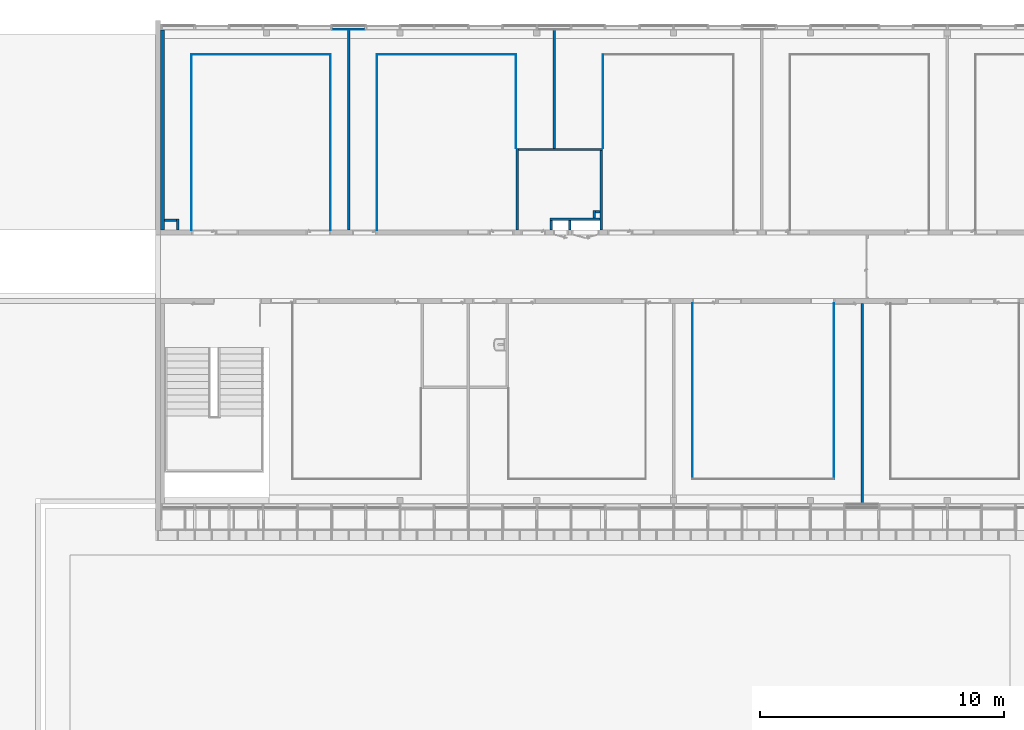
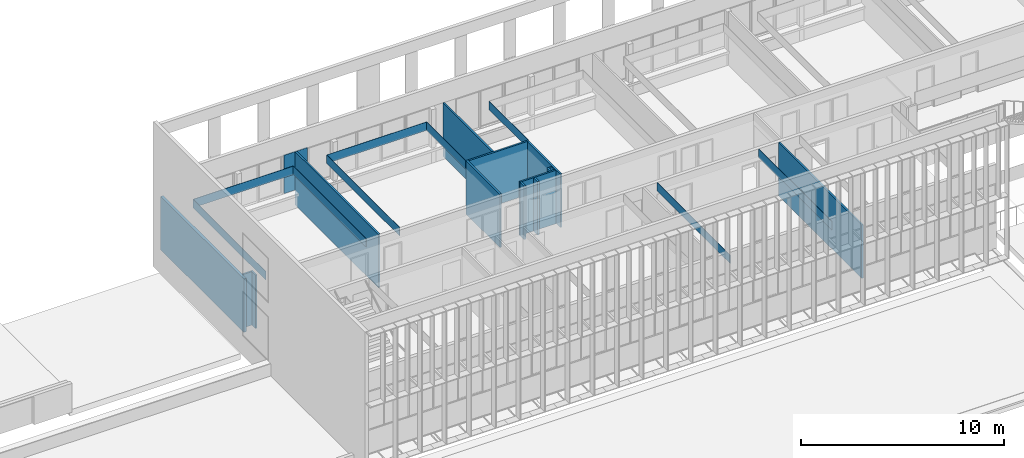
# One storey, part 46 of 106: 25 walls.
"""IFC2X3 building model written with IfcOpenShell, lengths in centimetres."""

from ifc_helpers import new_model, entity, si_unit, converted_unit, derived_unit, direction, frame, frame_2d, origin, place, context, subcontext, project, spatial, polyline, rectangle, extrude, clip, bounded_halfspace, material, layer, layer_set, layer_usage, type_object, element, save


model = new_model("IFC2X3")

# Units and contexts
model_context = context("Model", 3, precision=0.001, world=origin(), true_north=direction((6.12303176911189e-17, 1.0)))
body_context = subcontext(model_context, "Body", "Model", "MODEL_VIEW")
ifc_project = project(units=[si_unit("LENGTHUNIT", "METRE", prefix="CENTI"), si_unit("AREAUNIT", "SQUARE_METRE"), si_unit("VOLUMEUNIT", "CUBIC_METRE"), converted_unit("PLANEANGLEUNIT", "DEGREE", entity("IfcRatioMeasure", 0.0174532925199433), si_unit("PLANEANGLEUNIT", "RADIAN"), dimensions=[0, 0, 0, 0, 0, 0, 0]), si_unit("MASSUNIT", "GRAM", prefix="KILO"), derived_unit("MASSDENSITYUNIT", [(si_unit("MASSUNIT", "GRAM", prefix="KILO"), 1), (si_unit("LENGTHUNIT", "METRE"), -3)]), si_unit("TIMEUNIT", "SECOND"), si_unit("FREQUENCYUNIT", "HERTZ"), si_unit("THERMODYNAMICTEMPERATUREUNIT", "DEGREE_CELSIUS"), derived_unit("THERMALTRANSMITTANCEUNIT", [(si_unit("MASSUNIT", "GRAM", prefix="KILO"), 1), (si_unit("THERMODYNAMICTEMPERATUREUNIT", "KELVIN"), -1), (si_unit("TIMEUNIT", "SECOND"), -3)]), derived_unit("VOLUMETRICFLOWRATEUNIT", [(si_unit("LENGTHUNIT", "METRE"), 3), (si_unit("TIMEUNIT", "SECOND"), -1)]), si_unit("ELECTRICCURRENTUNIT", "AMPERE"), si_unit("ELECTRICVOLTAGEUNIT", "VOLT"), si_unit("POWERUNIT", "WATT"), si_unit("FORCEUNIT", "NEWTON", prefix="KILO"), si_unit("ILLUMINANCEUNIT", "LUX"), si_unit("LUMINOUSFLUXUNIT", "LUMEN"), si_unit("LUMINOUSINTENSITYUNIT", "CANDELA"), derived_unit("USERDEFINED", [(si_unit("MASSUNIT", "GRAM", prefix="KILO"), -1), (si_unit("LENGTHUNIT", "METRE"), -2), (si_unit("TIMEUNIT", "SECOND"), 3), (si_unit("LUMINOUSFLUXUNIT", "LUMEN"), 1)]), derived_unit("LINEARVELOCITYUNIT", [(si_unit("LENGTHUNIT", "METRE"), 1), (si_unit("TIMEUNIT", "SECOND"), -1)]), si_unit("PRESSUREUNIT", "PASCAL"), derived_unit("USERDEFINED", [(si_unit("LENGTHUNIT", "METRE"), -2), (si_unit("MASSUNIT", "GRAM", prefix="KILO"), 1), (si_unit("TIMEUNIT", "SECOND"), -2)])], contexts=[model_context])

# Site, building, storey
site_placement = place(None, frame((-2781.94577612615, 7442.24238424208, 0.0)))
site = spatial("IfcSite", under=ifc_project, at=site_placement, Name="Default", CompositionType="ELEMENT")
building_placement = place(site_placement, origin())
building = spatial("IfcBuilding", under=site, at=building_placement, CompositionType="ELEMENT")
storey_placement = place(building_placement, frame((0.0, 0.0, 422.0)))
storey = spatial("IfcBuildingStorey", under=building, at=storey_placement, Name="Toiture - Cuisine", CompositionType="ELEMENT", Elevation=421.999999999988)

# Walls
ifc_material_1 = material(Name="00 - Isolant")
ifc_layer_1 = layer(ifc_material_1, 14.0)
ifc_material_2 = material(Name="01 - Enduit/Plâtre")
ifc_layer_2 = layer(ifc_material_2, 1.3)
ifc_layer_set_1 = layer_set([ifc_layer_1, ifc_layer_2], Name="Mur de base:04 - Parement -  isolant 14 cm + BA13")
ifc_layer_usage_1 = layer_usage(ifc_layer_set_1, "AXIS2", "POSITIVE", -7.65)
wall_type_1 = type_object("IfcWallType", Name="Mur de base:04 - Parement -  isolant 14 cm + BA13", PredefinedType="STANDARD", material=ifc_layer_set_1)
wall_1_placement = place(building_placement, frame((-8401.84987766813, 10.0, 422.0), z_axis=(0.0, 0.0, 1.0), x_axis=(0.0, -1.0, 0.0)))
element("IfcWallStandardCase", 1, at=wall_1_placement, inside=storey, type_object=wall_type_1, material=ifc_layer_usage_1, Name="Mur de base:04 - Parement -  isolant 14 cm + BA13", ObjectType="Mur de base:04 - Parement -  isolant 14 cm + BA13", context=body_context, shape_type="Clipping", body=[
    clip(extrude(rectangle(XDim=820.048500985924, YDim=15.3000000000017, at=frame_2d((410.024250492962, 0.0), x_axis=(-1.0, 0.0))), origin(), (0.0, 0.0, 1.0), 321.0), bounded_halfspace(frame((20.0, -7.64999999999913, 321.0), z_axis=(0.0, 0.0, -1.0), x_axis=(-1.0, 0.0, 0.0)), True, frame((20.0, -7.64999999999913, 321.0)), polyline([(0.0, 0.0), (800.048500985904, 0.0), (800.048500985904, 15.3), (765.048500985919, 15.3), (755.048500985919, 15.3), (0.0, 15.3), (0.0, 0.0)]))),
])
ifc_layer_3 = layer(ifc_material_2, 1.3)
ifc_layer_4 = layer(ifc_material_1, 7.4)
ifc_layer_5 = layer(ifc_material_2, 1.3)
ifc_layer_set_2 = layer_set([ifc_layer_3, ifc_layer_4, ifc_layer_5], Name="Mur de base:06 - cloisons - Ba13 10cm")
ifc_layer_usage_2 = layer_usage(ifc_layer_set_2, "AXIS2", "NEGATIVE", 5.0)
wall_type_2 = type_object("IfcWallType", Name="Mur de base:06 - cloisons - Ba13 10cm", PredefinedType="STANDARD", material=ifc_layer_set_2)
wall_2_placement = place(building_placement, frame((-6798.79987968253, 10.0, 422.0), z_axis=(0.0, 0.0, 1.0), x_axis=(0.0, -1.0, 0.0)))
element("IfcWallStandardCase", 2, at=wall_2_placement, inside=storey, type_object=wall_type_2, material=ifc_layer_usage_2, Name="Mur de base:06 - cloisons - Ba13 10cm", ObjectType="Mur de base:06 - cloisons - Ba13 10cm", context=body_context, shape_type="Clipping", body=[
    clip(extrude(rectangle(XDim=485.048500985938, YDim=9.99999999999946, at=frame_2d((242.524250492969, 7.32747196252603e-14), x_axis=(-1.0, 0.0))), origin(), (0.0, 0.0, 1.0), 321.0), bounded_halfspace(frame((20.0, -5.0, 321.0), z_axis=(0.0, 0.0, -1.0), x_axis=(-1.0, 0.0, 0.0)), True, frame((20.0, -5.0, 321.0)), polyline([(0.0, 0.0), (465.048500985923, 0.0), (465.048500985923, 10.0), (0.0, 10.0), (0.0, 0.0)]))),
])
ifc_layer_usage_3 = layer_usage(ifc_layer_set_2, "AXIS2", "NEGATIVE", 5.0)
wall_3_placement = place(building_placement, frame((-7638.79987968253, 10.0, 422.0), z_axis=(0.0, 0.0, 1.0), x_axis=(0.0, -1.0, 0.0)))
element("IfcWallStandardCase", 3, at=wall_3_placement, inside=storey, type_object=wall_type_2, material=ifc_layer_usage_3, Name="Mur de base:06 - cloisons - Ba13 10cm", ObjectType="Mur de base:06 - cloisons - Ba13 10cm", context=body_context, shape_type="Clipping", body=[
    clip(extrude(rectangle(XDim=820.048500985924, YDim=9.99999999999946, at=frame_2d((410.024250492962, 1.06581410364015e-14), x_axis=(-1.0, 0.0))), origin(), (0.0, 0.0, 1.0), 321.0), bounded_halfspace(frame((20.0, -5.0, 321.0), z_axis=(0.0, 0.0, -1.0), x_axis=(-1.0, 0.0, 0.0)), True, frame((20.0, -5.0, 321.0)), polyline([(0.0, 0.0), (800.048500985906, 0.0), (800.048500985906, 10.0), (0.0, 10.0), (0.0, 0.0)]))),
])
ifc_layer_usage_4 = layer_usage(ifc_layer_set_2, "AXIS2", "NEGATIVE", 5.0)
wall_4_placement = place(building_placement, frame((-6948.79987968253, -810.048500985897, 422.0), z_axis=(0.0, 0.0, 1.0), x_axis=(0.0, 1.0, 0.0)))
element("IfcWallStandardCase", 4, at=wall_4_placement, inside=storey, type_object=wall_type_2, material=ifc_layer_usage_4, Name="Mur de base:06 - cloisons - Ba13 10cm", ObjectType="Mur de base:06 - cloisons - Ba13 10cm", context=body_context, shape_type="Clipping", body=[
    clip(extrude(rectangle(XDim=334.999999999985, YDim=9.99999999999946, at=frame_2d((167.499999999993, 0.0), x_axis=(-1.0, 0.0))), origin(), (0.0, 0.0, 1.0), 321.0), bounded_halfspace(frame((0.0, -5.0, 321.0), z_axis=(0.0, 0.0, -1.0), x_axis=(1.0, 0.0, 0.0)), True, frame((0.0, -5.0, 321.0)), polyline([(0.0, 0.0), (325.0, 0.0), (335.0, 0.0), (335.0, 10.0), (0.0, 10.0), (0.0, 0.0)]))),
])
ifc_layer_usage_5 = layer_usage(ifc_layer_set_2, "AXIS2", "NEGATIVE", 5.0)
wall_5_placement = place(building_placement, frame((-6943.79987968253, -480.048500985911, 422.0)))
element("IfcWallStandardCase", 5, at=wall_5_placement, inside=storey, type_object=wall_type_2, material=ifc_layer_usage_5, Name="Mur de base:06 - cloisons - Ba13 10cm", ObjectType="Mur de base:06 - cloisons - Ba13 10cm", context=body_context, shape_type="Clipping", body=[
    clip(extrude(rectangle(XDim=344.000000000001, YDim=10.0, at=frame_2d((172.0, 0.0), x_axis=(-1.0, 0.0))), origin(), (0.0, 0.0, 1.0), 321.0), bounded_halfspace(frame((0.0, -5.0, 321.0), z_axis=(0.0, 0.0, -1.0), x_axis=(0.0, 1.0, 0.0)), True, frame((0.0, -5.0, 321.0)), polyline([(0.0, 0.0), (334.0, 0.0), (344.0, 0.0), (344.0, 10.0), (150.0, 10.0), (140.0, 10.0), (0.0, 10.0), (0.0, 0.0)]))),
])
ifc_layer_usage_6 = layer_usage(ifc_layer_set_2, "AXIS2", "NEGATIVE", 5.0)
wall_6_placement = place(building_placement, frame((-6604.79987968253, -485.048500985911, 422.0), z_axis=(0.0, 0.0, 1.0), x_axis=(0.0, -1.0, 0.0)))
element("IfcWallStandardCase", 6, at=wall_6_placement, inside=storey, type_object=wall_type_2, material=ifc_layer_usage_6, Name="Mur de base:06 - cloisons - Ba13 10cm", ObjectType="Mur de base:06 - cloisons - Ba13 10cm", context=body_context, shape_type="Clipping", body=[
    clip(extrude(rectangle(XDim=324.999999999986, YDim=9.99999999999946, at=frame_2d((162.499999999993, 0.0), x_axis=(-1.0, 0.0))), origin(), (0.0, 0.0, 1.0), 321.0), bounded_halfspace(frame((0.0, -5.0, 321.0), z_axis=(0.0, 0.0, -1.0), x_axis=(-1.0, 0.0, 0.0)), True, frame((0.0, -5.0, 321.0)), polyline([(0.0, 0.0), (245.0, 0.0), (255.0, 0.0), (275.0, 0.0), (285.0, 0.0), (325.0, 0.0), (325.0, 10.0), (0.0, 10.0), (0.0, 0.0)]))),
])
ifc_layer_usage_7 = layer_usage(ifc_layer_set_2, "AXIS2", "NEGATIVE", 5.0)
wall_7_placement = place(building_placement, frame((-6609.79987968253, -765.048500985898, 422.0), z_axis=(0.0, 0.0, 1.0), x_axis=(-1.0, 0.0, 0.0)))
element("IfcWallStandardCase", 7, at=wall_7_placement, inside=storey, type_object=wall_type_2, material=ifc_layer_usage_7, Name="Mur de base:06 - cloisons - Ba13 10cm", ObjectType="Mur de base:06 - cloisons - Ba13 10cm", context=body_context, shape_type="Clipping", body=[
    clip(extrude(rectangle(XDim=206.0, YDim=10.0000000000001, at=frame_2d((103.0, -2.48689957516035e-14), x_axis=(-1.0, 0.0))), origin(), (0.0, 0.0, 1.0), 321.0), bounded_halfspace(frame((0.0, -5.0, 321.0), z_axis=(0.0, 0.0, -1.0), x_axis=(0.0, -1.0, 0.0)), True, frame((0.0, -5.0, 321.0)), polyline([(0.0, 0.0), (20.0, 0.0), (30.0, 0.0), (206.0, 0.0), (206.0, 10.0), (196.0, 10.0), (129.0, 10.0), (119.0, 10.0), (0.0, 10.0), (0.0, 0.0)]))),
])
ifc_layer_usage_8 = layer_usage(ifc_layer_set_2, "AXIS2", "NEGATIVE", 5.0)
wall_8_placement = place(building_placement, frame((-6810.79987968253, -770.048500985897, 422.0), z_axis=(0.0, 0.0, 1.0), x_axis=(0.0, -1.0, 0.0)))
element("IfcWallStandardCase", 8, at=wall_8_placement, inside=storey, type_object=wall_type_2, material=ifc_layer_usage_8, Name="Mur de base:06 - cloisons - Ba13 10cm", ObjectType="Mur de base:06 - cloisons - Ba13 10cm", context=body_context, shape_type="Clipping", body=[
    clip(extrude(rectangle(XDim=40.0000000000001, YDim=9.99999999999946, at=frame_2d((20.0000000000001, 0.0), x_axis=(-1.0, 0.0))), origin(), (0.0, 0.0, 1.0), 321.0), bounded_halfspace(frame((0.0, -5.0, 321.0), z_axis=(0.0, 0.0, -1.0), x_axis=(-1.0, 0.0, 0.0)), True, frame((0.0, -5.0, 321.0)), polyline([(0.0, 0.0), (40.0, 0.0), (40.0, 10.0), (0.0, 10.0), (0.0, 0.0)]))),
])
ifc_layer_usage_9 = layer_usage(ifc_layer_set_2, "AXIS2", "NEGATIVE", 5.0)
wall_9_placement = place(building_placement, frame((-6733.79987968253, -770.048500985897, 422.0), z_axis=(0.0, 0.0, 1.0), x_axis=(0.0, -1.0, 0.0)))
element("IfcWallStandardCase", 9, at=wall_9_placement, inside=storey, type_object=wall_type_2, material=ifc_layer_usage_9, Name="Mur de base:06 - cloisons - Ba13 10cm", ObjectType="Mur de base:06 - cloisons - Ba13 10cm", context=body_context, shape_type="Clipping", body=[
    clip(extrude(rectangle(XDim=40.0, YDim=9.99999999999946, at=frame_2d((20.0, 0.0), x_axis=(-1.0, 0.0))), origin(), (0.0, 0.0, 1.0), 321.0), bounded_halfspace(frame((0.0, -5.0, 321.0), z_axis=(0.0, 0.0, -1.0), x_axis=(-1.0, 0.0, 0.0)), True, frame((0.0, -5.0, 321.0)), polyline([(0.0, 0.0), (40.0, 0.0), (40.0, 10.0), (0.0, 10.0), (0.0, 0.0)]))),
])
ifc_layer_usage_10 = layer_usage(ifc_layer_set_2, "AXIS2", "NEGATIVE", 5.0)
wall_10_placement = place(building_placement, frame((-5537.49987760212, -1110.0, 422.0), z_axis=(0.0, 0.0, 1.0), x_axis=(0.0, -1.0, 0.0)))
element("IfcWallStandardCase", 10, at=wall_10_placement, inside=storey, type_object=wall_type_2, material=ifc_layer_usage_10, Name="Mur de base:06 - cloisons - Ba13 10cm", ObjectType="Mur de base:06 - cloisons - Ba13 10cm", context=body_context, shape_type="Clipping", body=[
    clip(extrude(rectangle(XDim=820.079033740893, YDim=9.99999999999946, at=frame_2d((410.039516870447, 1.06581410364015e-14), x_axis=(-1.0, 0.0))), origin(), (0.0, 0.0, 1.0), 321.0), bounded_halfspace(frame((0.0, -5.0, 321.0), z_axis=(0.0, 0.0, -1.0), x_axis=(-1.0, 0.0, 0.0)), True, frame((0.0, -5.0, 321.0)), polyline([(0.0, 0.0), (800.079033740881, 0.0), (800.079033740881, 10.0), (0.0, 10.0), (0.0, 0.0)]))),
])
ifc_layer_usage_11 = layer_usage(ifc_layer_set_2, "AXIS2", "NEGATIVE", 5.0)
wall_11_placement = place(building_placement, frame((-8339.19987766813, -810.048500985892, 422.0), z_axis=(0.0, 0.0, 1.0), x_axis=(0.0, 1.0, 0.0)))
element("IfcWallStandardCase", 11, at=wall_11_placement, inside=storey, type_object=wall_type_2, material=ifc_layer_usage_11, Name="Mur de base:06 - cloisons - Ba13 10cm", ObjectType="Mur de base:06 - cloisons - Ba13 10cm", context=body_context, shape_type="Clipping", body=[
    clip(extrude(rectangle(XDim=44.9999999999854, YDim=10.0000000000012, at=frame_2d((22.4999999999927, 0.0), x_axis=(-1.0, 0.0))), origin(), (0.0, 0.0, 1.0), 321.0), bounded_halfspace(frame((0.0, -5.0, 321.0), z_axis=(0.0, 0.0, -1.0), x_axis=(1.0, 0.0, 0.0)), True, frame((0.0, -5.0, 321.0)), polyline([(0.0, 0.0), (45.0, 0.0), (45.0, 10.0), (35.0, 10.0), (0.0, 10.0), (0.0, 0.0)]))),
])
ifc_layer_usage_12 = layer_usage(ifc_layer_set_2, "AXIS2", "NEGATIVE", 5.0)
wall_12_placement = place(building_placement, frame((-8344.19987766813, -770.048500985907, 422.0), z_axis=(0.0, 0.0, 1.0), x_axis=(-1.0, 0.0, 0.0)))
element("IfcWallStandardCase", 12, at=wall_12_placement, inside=storey, type_object=wall_type_2, material=ifc_layer_usage_12, Name="Mur de base:06 - cloisons - Ba13 10cm", ObjectType="Mur de base:06 - cloisons - Ba13 10cm", context=body_context, shape_type="Clipping", body=[
    clip(extrude(rectangle(XDim=50.0000000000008, YDim=10.0000000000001, at=frame_2d((25.0000000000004, 2.04281036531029e-14), x_axis=(-1.0, 0.0))), origin(), (0.0, 0.0, 1.0), 321.0), bounded_halfspace(frame((0.0, -5.0, 321.0), z_axis=(0.0, 0.0, -1.0), x_axis=(0.0, -1.0, 0.0)), True, frame((0.0, -5.0, 321.0)), polyline([(0.0, 0.0), (50.0, 0.0), (50.0, 10.0), (0.0, 10.0), (0.0, 0.0)]))),
])
ifc_layer_usage_13 = layer_usage(ifc_layer_set_2, "AXIS2", "NEGATIVE", 5.0)
wall_13_placement = place(building_placement, frame((-6634.79987968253, -760.048500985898, 422.0), z_axis=(0.0, 0.0, 1.0), x_axis=(0.0, 1.0, 0.0)))
element("IfcWallStandardCase", 13, at=wall_13_placement, inside=storey, type_object=wall_type_2, material=ifc_layer_usage_13, Name="Mur de base:06 - cloisons - Ba13 10cm", ObjectType="Mur de base:06 - cloisons - Ba13 10cm", context=body_context, shape_type="Clipping", body=[
    clip(extrude(rectangle(XDim=30.0, YDim=9.99999999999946, at=frame_2d((15.0, 0.0), x_axis=(-1.0, 0.0))), origin(), (0.0, 0.0, 1.0), 321.0), bounded_halfspace(frame((0.0, -5.0, 321.0), z_axis=(0.0, 0.0, -1.0), x_axis=(1.0, 0.0, 0.0)), True, frame((0.0, -5.0, 321.0)), polyline([(0.0, 0.0), (20.0, 0.0), (30.0, 0.0), (30.0, 10.0), (0.0, 10.0), (0.0, 0.0)]))),
])
ifc_layer_usage_14 = layer_usage(ifc_layer_set_2, "AXIS2", "NEGATIVE", 5.0)
wall_14_placement = place(building_placement, frame((-6629.79987968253, -735.048500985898, 422.0)))
element("IfcWallStandardCase", 14, at=wall_14_placement, inside=storey, type_object=wall_type_2, material=ifc_layer_usage_14, Name="Mur de base:06 - cloisons - Ba13 10cm", ObjectType="Mur de base:06 - cloisons - Ba13 10cm", context=body_context, shape_type="Clipping", body=[
    clip(extrude(rectangle(XDim=19.9999999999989, YDim=10.0000000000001, at=frame_2d((9.99999999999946, -1.64313007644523e-14), x_axis=(-1.0, 0.0))), origin(), (0.0, 0.0, 1.0), 321.0), bounded_halfspace(frame((0.0, -5.0, 321.0), z_axis=(0.0, 0.0, -1.0), x_axis=(0.0, 1.0, 0.0)), True, frame((0.0, -5.0, 321.0)), polyline([(0.0, 0.0), (20.0, 0.0), (20.0, 10.0), (0.0, 10.0), (0.0, 0.0)]))),
])
ifc_layer_6 = layer(ifc_material_2, 1.3)
ifc_material_3 = material(Name="00 - VIDE D'AIR")
ifc_layer_7 = layer(ifc_material_3, 0.7)
ifc_layer_set_3 = layer_set([ifc_layer_6, ifc_layer_7], Name="Mur de base:06 - habillage Ba13 collée 2cm")
ifc_layer_usage_15 = layer_usage(ifc_layer_set_3, "AXIS2", "NEGATIVE", 1.0)
wall_type_3 = type_object("IfcWallType", Name="Mur de base:06 - habillage Ba13 collée 2cm", PredefinedType="STANDARD", material=ifc_layer_set_3)
wall_15_placement = place(building_placement, frame((-7712.29987968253, -91.0, 692.0), z_axis=(0.0, 0.0, 1.0), x_axis=(-1.0, 0.0, 0.0)))
element("IfcWallStandardCase", 15, at=wall_15_placement, inside=storey, type_object=wall_type_3, material=ifc_layer_usage_15, Name="Mur de base:06 - habillage Ba13 collée 2cm", ObjectType="Mur de base:06 - habillage Ba13 collée 2cm", context=body_context, shape_type="Clipping", body=[
    clip(extrude(rectangle(XDim=571.899997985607, YDim=2.00000000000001, at=frame_2d((285.949998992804, 5.44009282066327e-15), x_axis=(-1.0, 0.0))), origin(), (0.0, 0.0, 1.0), 50.9999999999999), bounded_halfspace(frame((0.0, -1.0, 51.0), z_axis=(0.0, 0.0, -1.0), x_axis=(0.0, -1.0, 0.0)), True, frame((0.0, -1.0, 51.0)), polyline([(0.0, 0.0), (571.899997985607, 0.0), (571.899997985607, 2.0), (569.899997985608, 2.0), (2.0, 2.0), (0.0, 2.0), (0.0, 0.0)]))),
])
ifc_layer_usage_16 = layer_usage(ifc_layer_set_3, "AXIS2", "POSITIVE", -1.0)
wall_16_placement = place(building_placement, frame((-6953.79987968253, -91.0, 692.0), z_axis=(0.0, 0.0, 1.0), x_axis=(-1.0, 0.0, 0.0)))
element("IfcWallStandardCase", 16, at=wall_16_placement, inside=storey, type_object=wall_type_3, material=ifc_layer_usage_16, Name="Mur de base:06 - habillage Ba13 collée 2cm", ObjectType="Mur de base:06 - habillage Ba13 collée 2cm", context=body_context, shape_type="Clipping", body=[
    clip(extrude(rectangle(XDim=569.999999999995, YDim=2.00000000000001, at=frame_2d((284.999999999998, 4.44089209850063e-16), x_axis=(-1.0, 0.0))), origin(), (0.0, 0.0, 1.0), 50.9999999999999), bounded_halfspace(frame((0.0, -1.0, 51.0), z_axis=(0.0, 0.0, -1.0), x_axis=(0.0, -1.0, 0.0)), True, frame((0.0, -1.0, 51.0)), polyline([(0.0, 0.0), (570.0, 0.0), (570.0, 2.0), (568.0, 2.0), (2.0, 2.0), (0.0, 2.0), (0.0, 0.0)]))),
])
ifc_layer_usage_17 = layer_usage(ifc_layer_set_3, "AXIS2", "POSITIVE", -1.0)
wall_17_placement = place(building_placement, frame((-6598.79987968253, -92.0, 692.0), z_axis=(0.0, 0.0, 1.0), x_axis=(0.0, -1.0, 0.0)))
element("IfcWallStandardCase", 17, at=wall_17_placement, inside=storey, type_object=wall_type_3, material=ifc_layer_usage_17, Name="Mur de base:06 - habillage Ba13 collée 2cm", ObjectType="Mur de base:06 - habillage Ba13 collée 2cm", context=body_context, shape_type="Clipping", body=[
    clip(extrude(rectangle(XDim=383.048500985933, YDim=1.99999999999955, at=frame_2d((191.524250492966, -1.16573417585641e-15), x_axis=(-1.0, 0.0))), origin(), (0.0, 0.0, 1.0), 50.9999999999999), bounded_halfspace(frame((0.0, -1.0, 51.0), z_axis=(0.0, 0.0, -1.0), x_axis=(-1.0, 0.0, 0.0)), True, frame((0.0, -1.0, 51.0)), polyline([(0.0, 0.0), (383.048500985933, 0.0), (383.048500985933, 2.0), (0.0, 2.0), (0.0, 0.0)]))),
])
ifc_layer_usage_18 = layer_usage(ifc_layer_set_3, "AXIS2", "POSITIVE", -1.0)
wall_18_placement = place(building_placement, frame((-6954.79987968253, -475.048500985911, 692.0), z_axis=(0.0, 0.0, 1.0), x_axis=(0.0, 1.0, 0.0)))
element("IfcWallStandardCase", 18, at=wall_18_placement, inside=storey, type_object=wall_type_3, material=ifc_layer_usage_18, Name="Mur de base:06 - habillage Ba13 collée 2cm", ObjectType="Mur de base:06 - habillage Ba13 collée 2cm", context=body_context, shape_type="Clipping", body=[
    clip(extrude(rectangle(XDim=383.048500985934, YDim=1.99999999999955, at=frame_2d((191.524250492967, -1.16573417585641e-15), x_axis=(-1.0, 0.0))), origin(), (0.0, 0.0, 1.0), 50.9999999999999), bounded_halfspace(frame((0.0, -1.0, 51.0), z_axis=(0.0, 0.0, -1.0), x_axis=(1.0, 0.0, 0.0)), True, frame((0.0, -1.0, 51.0)), polyline([(0.0, 0.0), (383.048500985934, 0.0), (383.048500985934, 2.0), (0.0, 2.0), (0.0, 0.0)]))),
])
ifc_layer_usage_19 = layer_usage(ifc_layer_set_3, "AXIS2", "POSITIVE", -1.0)
wall_19_placement = place(building_placement, frame((-7522.79987968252, -92.0, 692.0), z_axis=(0.0, 0.0, 1.0), x_axis=(0.0, -1.0, 0.0)))
element("IfcWallStandardCase", 19, at=wall_19_placement, inside=storey, type_object=wall_type_3, material=ifc_layer_usage_19, Name="Mur de base:06 - habillage Ba13 collée 2cm", ObjectType="Mur de base:06 - habillage Ba13 collée 2cm", context=body_context, shape_type="Clipping", body=[
    clip(extrude(rectangle(XDim=718.048500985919, YDim=1.99999999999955, at=frame_2d((359.02425049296, -5.93969318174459e-15), x_axis=(-1.0, 0.0))), origin(), (0.0, 0.0, 1.0), 50.9999999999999), bounded_halfspace(frame((0.0, -1.0, 51.0), z_axis=(0.0, 0.0, -1.0), x_axis=(-1.0, 0.0, 0.0)), True, frame((0.0, -1.0, 51.0)), polyline([(0.0, 0.0), (718.048500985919, 0.0), (718.048500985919, 2.0), (0.0, 2.0), (0.0, 0.0)]))),
])
ifc_layer_usage_20 = layer_usage(ifc_layer_set_3, "AXIS2", "POSITIVE", -1.0)
wall_20_placement = place(building_placement, frame((-7713.29987968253, -810.048500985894, 692.0), z_axis=(0.0, 0.0, 1.0), x_axis=(0.0, 1.0, 0.0)))
element("IfcWallStandardCase", 20, at=wall_20_placement, inside=storey, type_object=wall_type_3, material=ifc_layer_usage_20, Name="Mur de base:06 - habillage Ba13 collée 2cm", ObjectType="Mur de base:06 - habillage Ba13 collée 2cm", context=body_context, shape_type="Clipping", body=[
    clip(extrude(rectangle(XDim=718.048500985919, YDim=1.99999999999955, at=frame_2d((359.02425049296, 2.07722727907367e-13), x_axis=(-1.0, 0.0))), origin(), (0.0, 0.0, 1.0), 50.9999999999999), bounded_halfspace(frame((0.0, -1.0, 51.0), z_axis=(0.0, 0.0, -1.0), x_axis=(1.0, 0.0, 0.0)), True, frame((0.0, -1.0, 51.0)), polyline([(0.0, 0.0), (718.048500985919, 0.0), (718.048500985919, 2.0), (0.0, 2.0), (0.0, 0.0)]))),
])
ifc_layer_usage_21 = layer_usage(ifc_layer_set_3, "AXIS2", "POSITIVE", -1.0)
wall_21_placement = place(building_placement, frame((-8283.19987766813, -92.0, 692.0), z_axis=(0.0, 0.0, 1.0), x_axis=(0.0, -1.0, 0.0)))
element("IfcWallStandardCase", 21, at=wall_21_placement, inside=storey, type_object=wall_type_3, material=ifc_layer_usage_21, Name="Mur de base:06 - habillage Ba13 collée 2cm", ObjectType="Mur de base:06 - habillage Ba13 collée 2cm", context=body_context, shape_type="Clipping", body=[
    clip(extrude(rectangle(XDim=718.048500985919, YDim=1.99999999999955, at=frame_2d((359.02425049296, 4.2721381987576e-13), x_axis=(-1.0, 0.0))), origin(), (0.0, 0.0, 1.0), 50.9999999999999), bounded_halfspace(frame((0.0, -1.0, 51.0), z_axis=(0.0, 0.0, -1.0), x_axis=(-1.0, 0.0, 0.0)), True, frame((0.0, -1.0, 51.0)), polyline([(0.0, 0.0), (718.048500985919, 0.0), (718.048500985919, 2.0), (0.0, 2.0), (0.0, 0.0)]))),
])
ifc_layer_usage_22 = layer_usage(ifc_layer_set_3, "AXIS2", "NEGATIVE", 1.0)
wall_22_placement = place(building_placement, frame((-5653.49987760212, -1110.0, 692.0), z_axis=(0.0, 0.0, 1.0), x_axis=(0.0, -1.0, 0.0)))
element("IfcWallStandardCase", 22, at=wall_22_placement, inside=storey, type_object=wall_type_3, material=ifc_layer_usage_22, Name="Mur de base:06 - habillage Ba13 collée 2cm", ObjectType="Mur de base:06 - habillage Ba13 collée 2cm", context=body_context, shape_type="Clipping", body=[
    clip(extrude(rectangle(XDim=720.079033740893, YDim=1.99999999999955, at=frame_2d((360.039516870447, -5.93969318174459e-15), x_axis=(-1.0, 0.0))), origin(), (0.0, 0.0, 1.0), 50.9999999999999), bounded_halfspace(frame((0.0, -1.0, 51.0), z_axis=(0.0, 0.0, -1.0), x_axis=(-1.0, 0.0, 0.0)), True, frame((0.0, -1.0, 51.0)), polyline([(0.0, 0.0), (718.079033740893, 0.0), (720.079033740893, 0.0), (720.079033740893, 2.0), (0.0, 2.0), (0.0, 0.0)]))),
])
ifc_layer_usage_23 = layer_usage(ifc_layer_set_3, "AXIS2", "NEGATIVE", 1.0)
wall_23_placement = place(building_placement, frame((-6231.49987760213, -1828.07903364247, 692.0), z_axis=(0.0, 0.0, 1.0), x_axis=(0.0, 1.0, 0.0)))
element("IfcWallStandardCase", 23, at=wall_23_placement, inside=storey, type_object=wall_type_3, material=ifc_layer_usage_23, Name="Mur de base:06 - habillage Ba13 collée 2cm", ObjectType="Mur de base:06 - habillage Ba13 collée 2cm", context=body_context, shape_type="Clipping", body=[
    clip(extrude(rectangle(XDim=718.079033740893, YDim=1.99999999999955, at=frame_2d((359.039516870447, -7.105427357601e-15), x_axis=(-1.0, 0.0))), origin(), (0.0, 0.0, 1.0), 50.9999999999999), bounded_halfspace(frame((0.0, -1.0, 51.0), z_axis=(0.0, 0.0, -1.0), x_axis=(1.0, 0.0, 0.0)), True, frame((0.0, -1.0, 51.0)), polyline([(0.0, 0.0), (718.079033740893, 0.0), (718.079033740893, 2.0), (0.0, 2.0), (0.0, 0.0)]))),
])
ifc_material_4 = material(Name="Métal déployé")
ifc_layer_8 = layer(ifc_material_4, 0.3)
ifc_material_5 = material(Name="Métal - Alu brossé")
ifc_layer_9 = layer(ifc_material_5, 1.7)
ifc_layer_set_4 = layer_set([ifc_layer_8, ifc_layer_9], Name="Mur de base:07 -Tôle alu sur CP")
ifc_layer_usage_24 = layer_usage(ifc_layer_set_4, "AXIS2", "NEGATIVE", 1.0)
wall_type_4 = type_object("IfcWallType", Name="Mur de base:07 -Tôle alu sur CP", PredefinedType="STANDARD", material=ifc_layer_set_4)
wall_24_placement = place(building_placement, frame((-7572.75004159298, 11.7000000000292, 512.0), z_axis=(0.0, 0.0, 1.0), x_axis=(-1.0, 0.0, 0.0)))
element("IfcWallStandardCase", 24, at=wall_24_placement, inside=storey, type_object=wall_type_4, material=ifc_layer_usage_24, Name="Mur de base:07 -Tôle alu sur CP", ObjectType="Mur de base:07 -Tôle alu sur CP", context=body_context, shape_type="SweptSolid", body=[
    extrude(rectangle(XDim=133.5, YDim=2.0, at=frame_2d((66.75, 0.0), x_axis=(-1.0, 0.0))), origin(), (0.0, 0.0, 1.0), 231.0),
])
ifc_layer_10 = layer(ifc_material_4, 0.3)
ifc_material_6 = material(Name="00 - Isolant polystyrène")
ifc_layer_11 = layer(ifc_material_6, 4.0)
ifc_layer_set_5 = layer_set([ifc_layer_10, ifc_layer_11], Name="Mur de base:07 -Tôle alu Shadowbox")
ifc_layer_usage_25 = layer_usage(ifc_layer_set_5, "AXIS2", "POSITIVE", -2.15)
wall_type_5 = type_object("IfcWallType", Name="Mur de base:07 -Tôle alu Shadowbox", PredefinedType="STANDARD", material=ifc_layer_set_5)
wall_25_placement = place(building_placement, frame((-7572.75004159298, 14.8500000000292, 512.618750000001), z_axis=(0.0, 0.0, 1.0), x_axis=(-1.0, 0.0, 0.0)))
element("IfcWallStandardCase", 25, at=wall_25_placement, inside=storey, type_object=wall_type_5, material=ifc_layer_usage_25, Name="Mur de base:07 -Tôle alu Shadowbox", ObjectType="Mur de base:07 -Tôle alu Shadowbox", context=body_context, shape_type="SweptSolid", body=[
    extrude(rectangle(XDim=133.5, YDim=4.3, at=frame_2d((66.75, 0.0), x_axis=(-1.0, 0.0))), origin(), (0.0, 0.0, 1.0), 230.381249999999),
])

save(model, "model.ifc")
